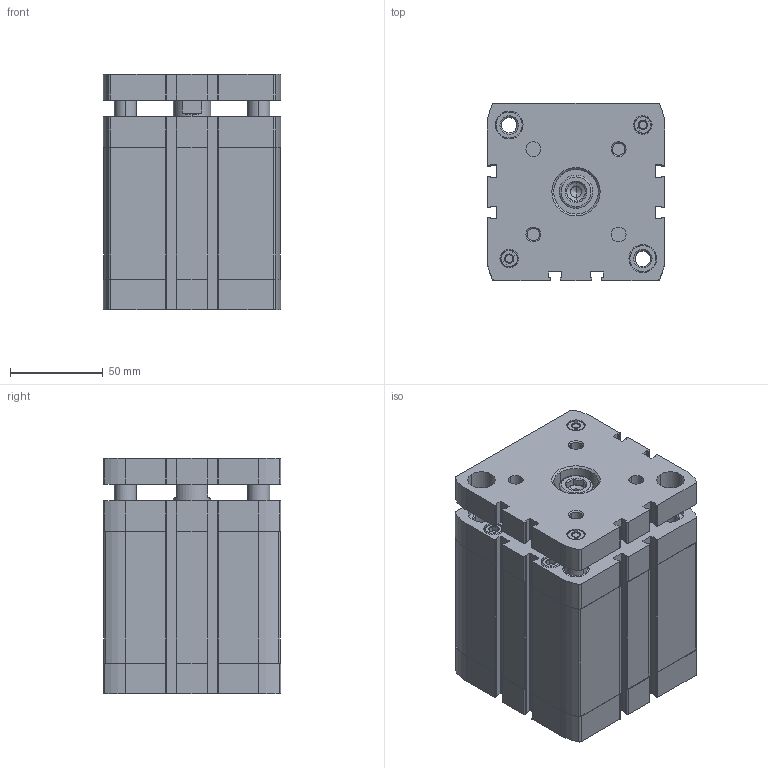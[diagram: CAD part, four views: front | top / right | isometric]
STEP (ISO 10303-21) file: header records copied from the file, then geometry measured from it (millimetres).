
FILE_DESCRIPTION (( 'STEP AP203' ), '1' );
FILE_NAME ('CCNG80-50.STEP', '2017-04-20T16:57:20', ( '' ), ( '' ), 'SwSTEP 2.0', 'SolidWorks 2016', '' );
FILE_SCHEMA (( 'CONFIG_CONTROL_DESIGN' ));
Length unit declared in the file: millimetre
Products named in the file (3): CCNG-80-50----(Z); CCNG-80-50----(KS); CCNG80-50
Assembly tree (2 placements, depth 2):
  CCNG80-50
    CCNG-80-50----(Z)
    CCNG-80-50----(KS)
Bounding box: 95.5 x 95.5 x 126.9 mm (x, y, z)
Volume: 763478.1 mm3; surface area: 166091.1 mm2
Topology: 2 solids, 4 shells, 749 faces, 1960 edges, 1257 vertices
Faces by surface type: plane 319, cylinder 280, cone 144, bspline 6
Entity records: 23925 total; most frequent: CARTESIAN_POINT 4737, DIRECTION 4122, ORIENTED_EDGE 3884, EDGE_CURVE 1942, AXIS2_PLACEMENT_3D 1526, VERTEX_POINT 1257, LINE 1070, VECTOR 1070
